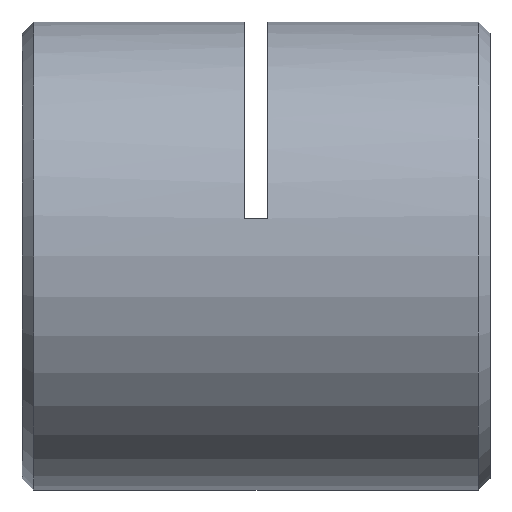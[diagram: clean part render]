
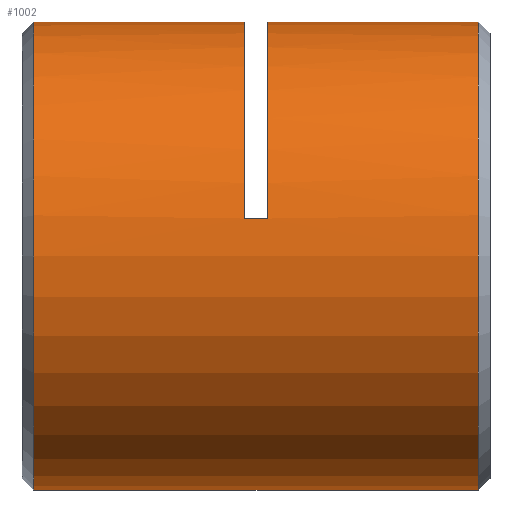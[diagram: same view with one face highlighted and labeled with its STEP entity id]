
A CAD part, left-side view. The second image highlights one B-rep face of the part: STEP entity #1002.
In plain terms, the highlighted cylindrical face has radius 8 mm (diameter 16 mm), a partial arc.
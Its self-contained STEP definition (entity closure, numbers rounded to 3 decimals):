
#114 = CARTESIAN_POINT ( 'NONE',  ( -7.897, 7.85, 1.28 ) ) ;
#144 = DIRECTION ( 'NONE',  ( 0., 1., 0. ) ) ;
#220 = EDGE_CURVE ( 'NONE', #3867, #466, #1614, .T. ) ;
#466 = VERTEX_POINT ( 'NONE', #2373 ) ;
#531 = ORIENTED_EDGE ( 'NONE', *, *, #3954, .T. ) ;
#584 = CIRCLE ( 'NONE', #594, 8. ) ;
#594 = AXIS2_PLACEMENT_3D ( 'NONE', #1975, #1333, #2884 ) ;
#679 = AXIS2_PLACEMENT_3D ( 'NONE', #1578, #3721, #3160 ) ;
#776 = VERTEX_POINT ( 'NONE', #3786 ) ;
#796 = DIRECTION ( 'NONE',  ( 0., 1., 0. ) ) ;
#863 = ORIENTED_EDGE ( 'NONE', *, *, #2414, .T. ) ;
#888 = CARTESIAN_POINT ( 'NONE',  ( 0., 0.25, 8. ) ) ;
#968 = EDGE_CURVE ( 'NONE', #3523, #1880, #989, .T. ) ;
#989 = LINE ( 'NONE', #888, #3188 ) ;
#1000 = ORIENTED_EDGE ( 'NONE', *, *, #968, .T. ) ;
#1002 = ADVANCED_FACE ( 'NONE', ( #1280 ), #2511, .T. ) ;
#1073 = VECTOR ( 'NONE', #1881, 1000. ) ;
#1120 = AXIS2_PLACEMENT_3D ( 'NONE', #3281, #2982, #2926 ) ;
#1180 = DIRECTION ( 'NONE',  ( 0., 1., 0. ) ) ;
#1209 = LINE ( 'NONE', #1312, #1073 ) ;
#1280 = FACE_OUTER_BOUND ( 'NONE', #2625, .T. ) ;
#1312 = CARTESIAN_POINT ( 'NONE',  ( -7.897, 8.25, 1.28 ) ) ;
#1333 = DIRECTION ( 'NONE',  ( 0., 1., 0. ) ) ;
#1578 = CARTESIAN_POINT ( 'NONE',  ( 0., 0.65, 0. ) ) ;
#1614 = LINE ( 'NONE', #3808, #2244 ) ;
#1770 = VERTEX_POINT ( 'NONE', #3699 ) ;
#1786 = ORIENTED_EDGE ( 'NONE', *, *, #3154, .F. ) ;
#1880 = VERTEX_POINT ( 'NONE', #3166 ) ;
#1881 = DIRECTION ( 'NONE',  ( 0., 1., 0. ) ) ;
#1903 = CARTESIAN_POINT ( 'NONE',  ( 0., 0.65, 8. ) ) ;
#1975 = CARTESIAN_POINT ( 'NONE',  ( 0., 8.65, 0. ) ) ;
#2244 = VECTOR ( 'NONE', #144, 1000. ) ;
#2373 = CARTESIAN_POINT ( 'NONE',  ( 0., 7.85, 8. ) ) ;
#2414 = EDGE_CURVE ( 'NONE', #776, #3523, #584, .T. ) ;
#2451 = CARTESIAN_POINT ( 'NONE',  ( 0., 0.65, -8. ) ) ;
#2511 = CYLINDRICAL_SURFACE ( 'NONE', #2641, 8. ) ;
#2623 = CARTESIAN_POINT ( 'NONE',  ( 0., 0.25, -8. ) ) ;
#2625 = EDGE_LOOP ( 'NONE', ( #1786, #531, #3504, #3348, #3114, #863, #1000, #3822 ) ) ;
#2641 = AXIS2_PLACEMENT_3D ( 'NONE', #3003, #3634, #3296 ) ;
#2681 = CIRCLE ( 'NONE', #679, 8. ) ;
#2821 = CARTESIAN_POINT ( 'NONE',  ( 0., 8.65, 8. ) ) ;
#2873 = CIRCLE ( 'NONE', #3648, 8. ) ;
#2878 = VECTOR ( 'NONE', #796, 1000. ) ;
#2884 = DIRECTION ( 'NONE',  ( 0., 0., 1. ) ) ;
#2926 = DIRECTION ( 'NONE',  ( 0., 0., -1. ) ) ;
#2933 = EDGE_CURVE ( 'NONE', #3562, #776, #1209, .T. ) ;
#2938 = CARTESIAN_POINT ( 'NONE',  ( 0., 7.85, 0. ) ) ;
#2982 = DIRECTION ( 'NONE',  ( 0., -1., 0. ) ) ;
#3003 = CARTESIAN_POINT ( 'NONE',  ( 0., 0.25, 0. ) ) ;
#3114 = ORIENTED_EDGE ( 'NONE', *, *, #2933, .T. ) ;
#3154 = EDGE_CURVE ( 'NONE', #3447, #1770, #3413, .T. ) ;
#3160 = DIRECTION ( 'NONE',  ( 0., 0., 1. ) ) ;
#3166 = CARTESIAN_POINT ( 'NONE',  ( 0., 15.85, 8. ) ) ;
#3188 = VECTOR ( 'NONE', #1180, 1000. ) ;
#3217 = EDGE_CURVE ( 'NONE', #1880, #1770, #3557, .T. ) ;
#3281 = CARTESIAN_POINT ( 'NONE',  ( 0., 15.85, 0. ) ) ;
#3296 = DIRECTION ( 'NONE',  ( 0., 0., 1. ) ) ;
#3348 = ORIENTED_EDGE ( 'NONE', *, *, #3679, .F. ) ;
#3413 = LINE ( 'NONE', #2623, #2878 ) ;
#3447 = VERTEX_POINT ( 'NONE', #2451 ) ;
#3504 = ORIENTED_EDGE ( 'NONE', *, *, #220, .T. ) ;
#3523 = VERTEX_POINT ( 'NONE', #2821 ) ;
#3557 = CIRCLE ( 'NONE', #1120, 8. ) ;
#3562 = VERTEX_POINT ( 'NONE', #114 ) ;
#3634 = DIRECTION ( 'NONE',  ( 0., 1., 0. ) ) ;
#3648 = AXIS2_PLACEMENT_3D ( 'NONE', #2938, #3855, #3890 ) ;
#3679 = EDGE_CURVE ( 'NONE', #3562, #466, #2873, .T. ) ;
#3699 = CARTESIAN_POINT ( 'NONE',  ( 0., 15.85, -8. ) ) ;
#3721 = DIRECTION ( 'NONE',  ( 0., 1., 0. ) ) ;
#3786 = CARTESIAN_POINT ( 'NONE',  ( -7.897, 8.65, 1.28 ) ) ;
#3808 = CARTESIAN_POINT ( 'NONE',  ( 0., 0.25, 8. ) ) ;
#3822 = ORIENTED_EDGE ( 'NONE', *, *, #3217, .T. ) ;
#3855 = DIRECTION ( 'NONE',  ( 0., 1., 0. ) ) ;
#3867 = VERTEX_POINT ( 'NONE', #1903 ) ;
#3890 = DIRECTION ( 'NONE',  ( 0., 0., 1. ) ) ;
#3954 = EDGE_CURVE ( 'NONE', #3447, #3867, #2681, .T. ) ;
